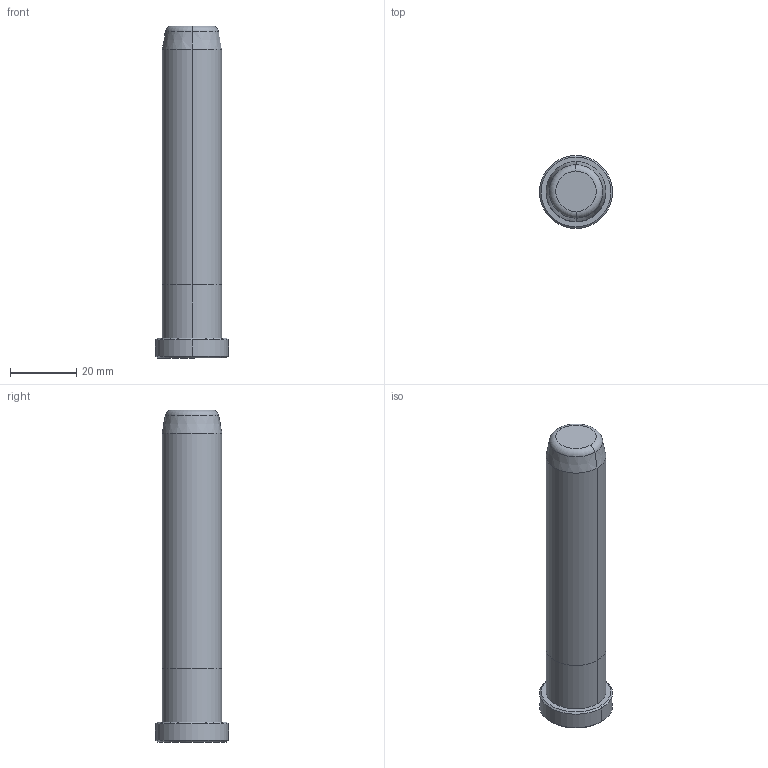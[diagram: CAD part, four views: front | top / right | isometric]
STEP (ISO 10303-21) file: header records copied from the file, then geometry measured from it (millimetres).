
FILE_DESCRIPTION((''),'2;1');
FILE_NAME('B82818100','2018-01-22T',('MANU'),(''),'PRO/ENGINEER BY PARAMETRIC TECHNOLOGY CORPORATION, 2012130','PRO/ENGINEER BY PARAMETRIC TECHNOLOGY CORPORATION, 2012130','');
FILE_SCHEMA(('CONFIG_CONTROL_DESIGN'));
Length unit declared in the file: millimetre
Products named in the file (1): B82818100
Bounding box: 22 x 22 x 100 mm (x, y, z)
Volume: 25933.4 mm3; surface area: 6335.1 mm2
Topology: 1 solids, 1 shells, 18 faces, 34 edges, 20 vertices
Faces by surface type: cone 6, cylinder 6, plane 4, torus 2
Entity records: 494 total; most frequent: DIRECTION 92, CARTESIAN_POINT 72, ORIENTED_EDGE 68, AXIS2_PLACEMENT_3D 40, EDGE_CURVE 34, CIRCLE 22, VERTEX_POINT 20, EDGE_LOOP 20
